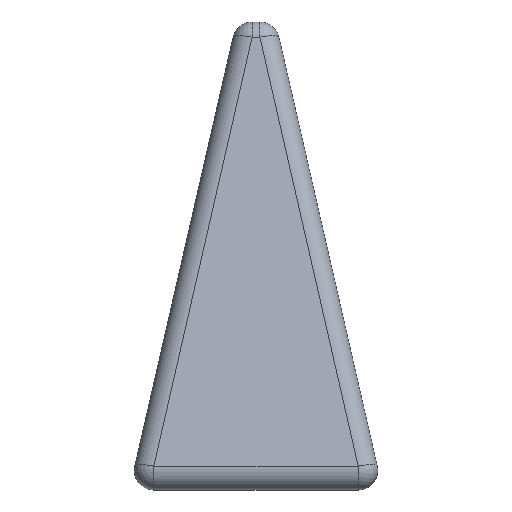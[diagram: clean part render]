
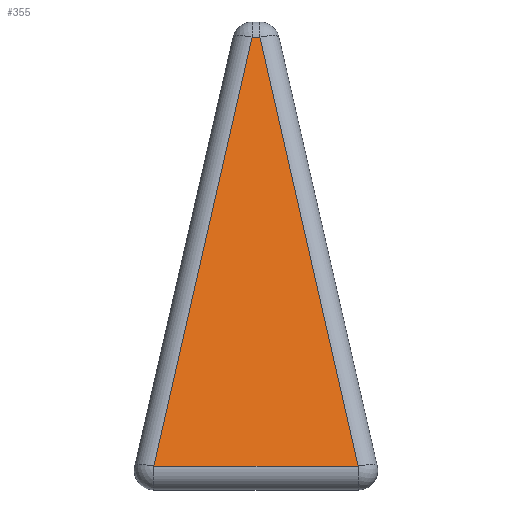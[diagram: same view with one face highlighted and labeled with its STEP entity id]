
A CAD part, left-side view. The second image highlights one B-rep face of the part: STEP entity #355.
In plain terms, the highlighted planar face has unit normal (-0.975, 0, 0.223).
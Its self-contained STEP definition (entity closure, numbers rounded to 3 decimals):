
#17=PLANE('',#419);
#21=LINE('',#600,#45);
#24=LINE('',#611,#48);
#27=LINE('',#616,#51);
#32=LINE('',#623,#56);
#45=VECTOR('',#483,10.);
#48=VECTOR('',#496,10.);
#51=VECTOR('',#503,10.);
#56=VECTOR('',#512,10.);
#103=FACE_OUTER_BOUND('',#129,.T.);
#129=EDGE_LOOP('',(#309,#310,#311,#312));
#166=VERTEX_POINT('',#572);
#174=VERTEX_POINT('',#589);
#177=VERTEX_POINT('',#596);
#178=VERTEX_POINT('',#603);
#202=EDGE_CURVE('',#166,#177,#21,.T.);
#208=EDGE_CURVE('',#178,#174,#24,.T.);
#211=EDGE_CURVE('',#177,#178,#27,.T.);
#216=EDGE_CURVE('',#174,#166,#32,.T.);
#309=ORIENTED_EDGE('',*,*,#208,.F.);
#310=ORIENTED_EDGE('',*,*,#211,.F.);
#311=ORIENTED_EDGE('',*,*,#202,.F.);
#312=ORIENTED_EDGE('',*,*,#216,.F.);
#355=ADVANCED_FACE('',(#103),#17,.F.);
#419=AXIS2_PLACEMENT_3D('',#644,#541,#542);
#483=DIRECTION('',(0.,-1.,0.));
#496=DIRECTION('',(0.,1.,0.));
#503=DIRECTION('',(-0.218,-0.218,-0.951));
#512=DIRECTION('',(0.218,-0.218,0.951));
#541=DIRECTION('center_axis',(0.975,0.,-0.223));
#542=DIRECTION('ref_axis',(-0.223,0.,-0.975));
#572=CARTESIAN_POINT('',(-17.67,3.049,348.351));
#589=CARTESIAN_POINT('',(-93.295,78.674,18.351));
#596=CARTESIAN_POINT('',(-17.67,-3.049,348.351));
#600=CARTESIAN_POINT('',(-17.67,-48.75,348.351));
#603=CARTESIAN_POINT('',(-93.295,-78.674,18.351));
#611=CARTESIAN_POINT('',(-93.295,-48.75,18.351));
#616=CARTESIAN_POINT('',(-93.561,-78.94,17.188));
#623=CARTESIAN_POINT('',(-93.561,78.94,17.188));
#644=CARTESIAN_POINT('Origin',(-97.5,-97.5,0.));
